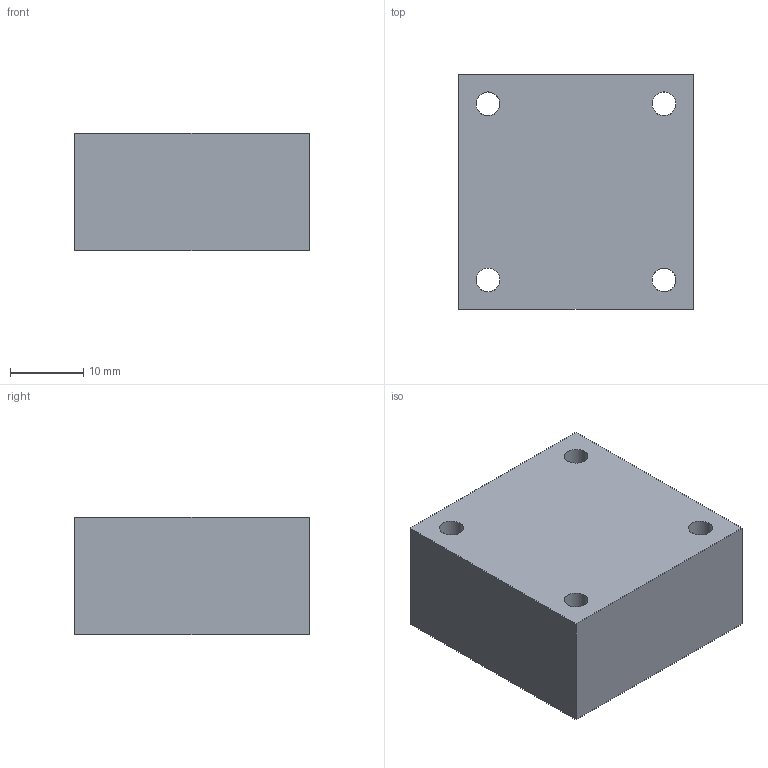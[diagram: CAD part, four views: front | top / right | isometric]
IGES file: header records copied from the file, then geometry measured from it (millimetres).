
Global section: file name: 300_04_90; native system: Autodesk Inventor 2014; preprocessor: unknown; author: A. Manieri; organization: Pneumax S.p.A.; date: 20161004.163551; units: millimetre
Bounding box: 32 x 32 x 16 mm (x, y, z)
Volume: 14309.5 mm3; surface area: 5348.4 mm2
Topology: 1 solids, 1 shells, 24 faces, 60 edges, 44 vertices
Faces by surface type: bspline 24
